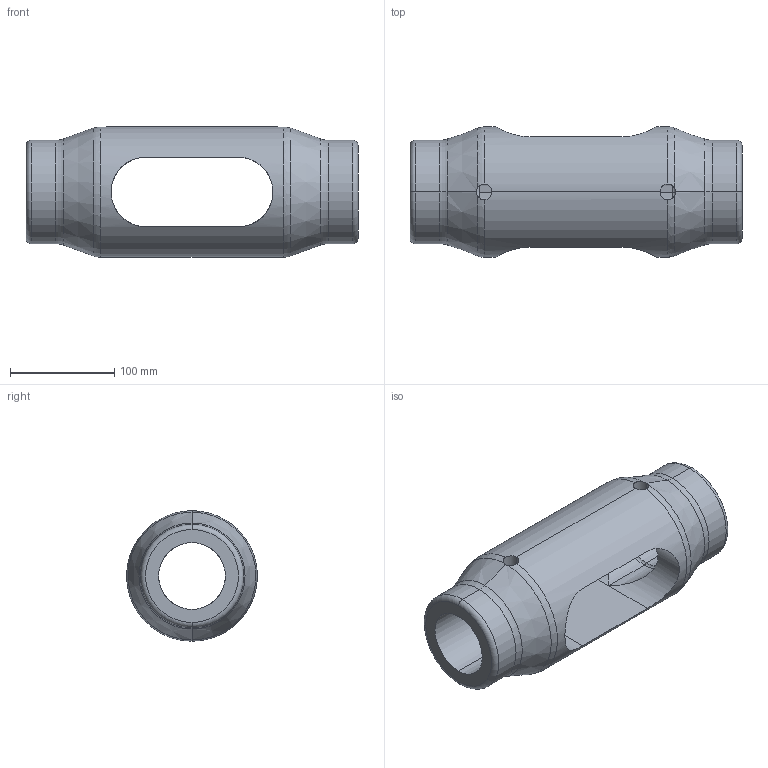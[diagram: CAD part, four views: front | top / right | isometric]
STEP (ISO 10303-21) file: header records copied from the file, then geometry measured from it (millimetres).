
FILE_DESCRIPTION (( 'STEP AP203' ), '1' );
FILE_NAME ('Kreuzmuffe M64.STEP', '2018-03-14T05:22:24', ( 'install' ), ( 'Hewlett-Packard Company' ), 'SwSTEP 2.0', 'SolidWorks 2017', '' );
FILE_SCHEMA (( 'CONFIG_CONTROL_DESIGN' ));
Length unit declared in the file: millimetre
Products named in the file (1): Kreuzmuffe M64
Bounding box: 318 x 124.93 x 125 mm (x, y, z)
Volume: 1731709 mm3; surface area: 180417 mm2
Topology: 1 solids, 1 shells, 45 faces, 113 edges, 64 vertices
Faces by surface type: cylinder 22, torus 15, cone 4, plane 4
Entity records: 1951 total; most frequent: CARTESIAN_POINT 823, ORIENTED_EDGE 226, DIRECTION 220, EDGE_CURVE 113, AXIS2_PLACEMENT_3D 93, VERTEX_POINT 64, EDGE_LOOP 49, CIRCLE 47
